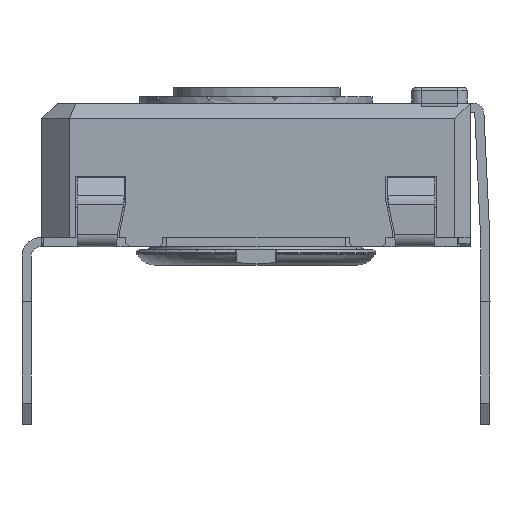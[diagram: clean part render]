
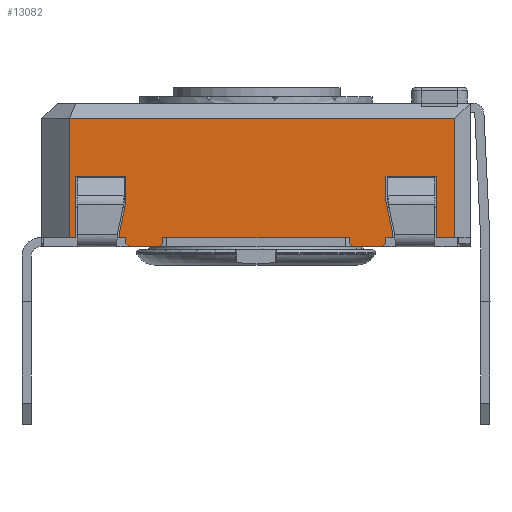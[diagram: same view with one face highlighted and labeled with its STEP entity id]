
A CAD part, left-side view. The second image highlights one B-rep face of the part: STEP entity #13082.
In plain terms, the highlighted planar face has unit normal (-1, 0, 0).
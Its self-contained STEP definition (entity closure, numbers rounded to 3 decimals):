
#1020=FACE_OUTER_BOUND('',#1702,.T.);
#1702=EDGE_LOOP('',(#10436,#10437,#10438,#10439,#10440,#10441,#10442,#10443,
#10444,#10445,#10446,#10447,#10448,#10449,#10450,#10451,#10452,#10453,#10454,
#10455,#10456,#10457,#10458,#10459,#10460,#10461,#10462,#10463));
#2706=LINE('',#20031,#4209);
#2712=LINE('',#20043,#4215);
#2715=LINE('',#20050,#4218);
#2720=LINE('',#20059,#4223);
#2740=LINE('',#20100,#4243);
#2754=LINE('',#20126,#4257);
#2758=LINE('',#20133,#4261);
#2773=LINE('',#20162,#4276);
#2776=LINE('',#20168,#4279);
#2781=LINE('',#20178,#4284);
#2784=LINE('',#20184,#4287);
#2787=LINE('',#20190,#4290);
#2805=LINE('',#20225,#4308);
#2817=LINE('',#20247,#4320);
#2820=LINE('',#20253,#4323);
#2857=LINE('',#20387,#4360);
#2865=LINE('',#20401,#4368);
#2874=LINE('',#20419,#4377);
#2879=LINE('',#20429,#4382);
#2881=LINE('',#20432,#4384);
#3006=LINE('',#20743,#4509);
#3008=LINE('',#20748,#4511);
#3011=LINE('',#20752,#4514);
#3013=LINE('',#20756,#4516);
#3016=LINE('',#20764,#4519);
#3017=LINE('',#20766,#4520);
#3018=LINE('',#20767,#4521);
#3019=LINE('',#20768,#4522);
#4209=VECTOR('',#16028,10.);
#4215=VECTOR('',#16036,10.);
#4218=VECTOR('',#16041,10.);
#4223=VECTOR('',#16048,10.);
#4243=VECTOR('',#16082,10.);
#4257=VECTOR('',#16096,10.);
#4261=VECTOR('',#16100,10.);
#4276=VECTOR('',#16127,10.);
#4279=VECTOR('',#16132,10.);
#4284=VECTOR('',#16139,10.);
#4287=VECTOR('',#16144,10.);
#4290=VECTOR('',#16149,10.);
#4308=VECTOR('',#16169,10.);
#4320=VECTOR('',#16183,10.);
#4323=VECTOR('',#16188,10.);
#4360=VECTOR('',#16269,10.);
#4368=VECTOR('',#16279,10.);
#4377=VECTOR('',#16290,10.);
#4382=VECTOR('',#16297,10.);
#4384=VECTOR('',#16301,10.);
#4509=VECTOR('',#16592,10.);
#4511=VECTOR('',#16596,10.);
#4514=VECTOR('',#16601,10.);
#4516=VECTOR('',#16607,10.);
#4519=VECTOR('',#16618,10.);
#4520=VECTOR('',#16619,10.);
#4521=VECTOR('',#16620,10.);
#4522=VECTOR('',#16621,10.);
#5619=VERTEX_POINT('',#20028);
#5620=VERTEX_POINT('',#20030);
#5624=VERTEX_POINT('',#20040);
#5626=VERTEX_POINT('',#20046);
#5628=VERTEX_POINT('',#20049);
#5631=VERTEX_POINT('',#20057);
#5656=VERTEX_POINT('',#20123);
#5657=VERTEX_POINT('',#20125);
#5659=VERTEX_POINT('',#20130);
#5660=VERTEX_POINT('',#20132);
#5667=VERTEX_POINT('',#20159);
#5669=VERTEX_POINT('',#20165);
#5673=VERTEX_POINT('',#20175);
#5675=VERTEX_POINT('',#20181);
#5678=VERTEX_POINT('',#20188);
#5694=VERTEX_POINT('',#20223);
#5703=VERTEX_POINT('',#20245);
#5705=VERTEX_POINT('',#20251);
#5732=VERTEX_POINT('',#20385);
#5737=VERTEX_POINT('',#20399);
#5744=VERTEX_POINT('',#20416);
#5748=VERTEX_POINT('',#20426);
#5822=VERTEX_POINT('',#20740);
#5823=VERTEX_POINT('',#20742);
#5824=VERTEX_POINT('',#20746);
#5825=VERTEX_POINT('',#20747);
#5826=VERTEX_POINT('',#20763);
#5827=VERTEX_POINT('',#20765);
#7144=EDGE_CURVE('',#5620,#5619,#2706,.T.);
#7150=EDGE_CURVE('',#5619,#5624,#2712,.T.);
#7153=EDGE_CURVE('',#5628,#5626,#2715,.T.);
#7158=EDGE_CURVE('',#5631,#5626,#2720,.T.);
#7178=EDGE_CURVE('',#5624,#5628,#2740,.T.);
#7192=EDGE_CURVE('',#5657,#5656,#2754,.T.);
#7196=EDGE_CURVE('',#5660,#5659,#2758,.T.);
#7212=EDGE_CURVE('',#5656,#5667,#2773,.T.);
#7215=EDGE_CURVE('',#5667,#5669,#2776,.T.);
#7220=EDGE_CURVE('',#5669,#5673,#2781,.T.);
#7223=EDGE_CURVE('',#5673,#5675,#2784,.T.);
#7226=EDGE_CURVE('',#5675,#5678,#2787,.T.);
#7244=EDGE_CURVE('',#5678,#5694,#2805,.T.);
#7256=EDGE_CURVE('',#5703,#5694,#2817,.T.);
#7259=EDGE_CURVE('',#5705,#5703,#2820,.T.);
#7308=EDGE_CURVE('',#5732,#5705,#2857,.T.);
#7316=EDGE_CURVE('',#5732,#5737,#2865,.T.);
#7325=EDGE_CURVE('',#5737,#5744,#2874,.T.);
#7330=EDGE_CURVE('',#5744,#5748,#2879,.T.);
#7332=EDGE_CURVE('',#5748,#5620,#2881,.T.);
#7473=EDGE_CURVE('',#5822,#5823,#3006,.T.);
#7475=EDGE_CURVE('',#5824,#5825,#3008,.T.);
#7478=EDGE_CURVE('',#5657,#5822,#3011,.T.);
#7480=EDGE_CURVE('',#5659,#5825,#3013,.T.);
#7483=EDGE_CURVE('',#5631,#5826,#3016,.T.);
#7484=EDGE_CURVE('',#5827,#5826,#3017,.T.);
#7485=EDGE_CURVE('',#5660,#5827,#3018,.T.);
#7486=EDGE_CURVE('',#5824,#5823,#3019,.T.);
#10436=ORIENTED_EDGE('',*,*,#7150,.T.);
#10437=ORIENTED_EDGE('',*,*,#7178,.T.);
#10438=ORIENTED_EDGE('',*,*,#7153,.T.);
#10439=ORIENTED_EDGE('',*,*,#7158,.F.);
#10440=ORIENTED_EDGE('',*,*,#7483,.T.);
#10441=ORIENTED_EDGE('',*,*,#7484,.F.);
#10442=ORIENTED_EDGE('',*,*,#7485,.F.);
#10443=ORIENTED_EDGE('',*,*,#7196,.T.);
#10444=ORIENTED_EDGE('',*,*,#7480,.T.);
#10445=ORIENTED_EDGE('',*,*,#7475,.F.);
#10446=ORIENTED_EDGE('',*,*,#7486,.T.);
#10447=ORIENTED_EDGE('',*,*,#7473,.F.);
#10448=ORIENTED_EDGE('',*,*,#7478,.F.);
#10449=ORIENTED_EDGE('',*,*,#7192,.T.);
#10450=ORIENTED_EDGE('',*,*,#7212,.T.);
#10451=ORIENTED_EDGE('',*,*,#7215,.T.);
#10452=ORIENTED_EDGE('',*,*,#7220,.T.);
#10453=ORIENTED_EDGE('',*,*,#7223,.T.);
#10454=ORIENTED_EDGE('',*,*,#7226,.T.);
#10455=ORIENTED_EDGE('',*,*,#7244,.T.);
#10456=ORIENTED_EDGE('',*,*,#7256,.F.);
#10457=ORIENTED_EDGE('',*,*,#7259,.F.);
#10458=ORIENTED_EDGE('',*,*,#7308,.F.);
#10459=ORIENTED_EDGE('',*,*,#7316,.T.);
#10460=ORIENTED_EDGE('',*,*,#7325,.T.);
#10461=ORIENTED_EDGE('',*,*,#7330,.T.);
#10462=ORIENTED_EDGE('',*,*,#7332,.T.);
#10463=ORIENTED_EDGE('',*,*,#7144,.T.);
#12259=PLANE('',#13961);
#13082=ADVANCED_FACE('',(#1020),#12259,.T.);
#13961=AXIS2_PLACEMENT_3D('',#20762,#16616,#16617);
#16028=DIRECTION('',(0.,0.208,-0.978));
#16036=DIRECTION('',(0.,0.,-1.));
#16041=DIRECTION('',(0.,0.,-1.));
#16048=DIRECTION('',(0.,0.707,0.707));
#16082=DIRECTION('',(0.,-1.,0.));
#16096=DIRECTION('',(0.,-1.,0.));
#16100=DIRECTION('',(0.,-1.,0.));
#16127=DIRECTION('',(0.,0.,1.));
#16132=DIRECTION('',(0.,0.208,0.978));
#16139=DIRECTION('',(0.,0.,1.));
#16144=DIRECTION('',(0.,-1.,0.));
#16149=DIRECTION('',(0.,0.,-1.));
#16169=DIRECTION('',(0.,-1.,0.));
#16183=DIRECTION('',(0.,0.,-1.));
#16188=DIRECTION('',(0.,-1.,0.));
#16269=DIRECTION('',(0.,0.,1.));
#16279=DIRECTION('',(0.,-1.,0.));
#16290=DIRECTION('',(0.,0.,1.));
#16297=DIRECTION('',(0.,-1.,0.));
#16301=DIRECTION('',(0.,0.,-1.));
#16592=DIRECTION('',(0.,0.707,-0.707));
#16596=DIRECTION('',(0.,0.707,0.707));
#16601=DIRECTION('',(0.,0.,-1.));
#16607=DIRECTION('',(0.,0.,-1.));
#16616=DIRECTION('center_axis',(-1.,0.,0.));
#16617=DIRECTION('ref_axis',(0.,0.,1.));
#16618=DIRECTION('',(0.,-1.,0.));
#16619=DIRECTION('',(0.,0.707,-0.707));
#16620=DIRECTION('',(0.,0.,-1.));
#16621=DIRECTION('',(0.,-1.,0.));
#20028=CARTESIAN_POINT('',(-14.467,1.552,0.235));
#20030=CARTESIAN_POINT('',(-14.467,1.352,1.176));
#20031=CARTESIAN_POINT('',(-14.467,1.228,1.757));
#20040=CARTESIAN_POINT('',(-14.467,1.552,0.));
#20043=CARTESIAN_POINT('',(-14.467,1.552,0.));
#20046=CARTESIAN_POINT('',(-14.467,1.352,-0.2));
#20049=CARTESIAN_POINT('',(-14.467,1.352,0.));
#20050=CARTESIAN_POINT('',(-14.467,1.352,0.));
#20057=CARTESIAN_POINT('',(-14.467,1.252,-0.3));
#20059=CARTESIAN_POINT('',(-14.467,-1.436,-2.988));
#20100=CARTESIAN_POINT('',(-14.467,4.102,0.));
#20123=CARTESIAN_POINT('',(-14.467,-7.348,0.));
#20125=CARTESIAN_POINT('',(-14.467,-7.148,0.));
#20126=CARTESIAN_POINT('',(-14.467,4.102,0.));
#20130=CARTESIAN_POINT('',(-14.467,-5.948,0.));
#20132=CARTESIAN_POINT('',(-14.467,0.152,0.));
#20133=CARTESIAN_POINT('',(-14.467,4.102,0.));
#20159=CARTESIAN_POINT('',(-14.467,-7.348,0.235));
#20162=CARTESIAN_POINT('',(-14.467,-7.348,0.118));
#20165=CARTESIAN_POINT('',(-14.467,-7.148,1.176));
#20168=CARTESIAN_POINT('',(-14.467,-7.453,-0.254));
#20175=CARTESIAN_POINT('',(-14.467,-7.148,2.));
#20178=CARTESIAN_POINT('',(-14.467,-7.148,0.588));
#20181=CARTESIAN_POINT('',(-14.467,-8.798,2.));
#20184=CARTESIAN_POINT('',(-14.467,-8.523,2.));
#20188=CARTESIAN_POINT('',(-14.467,-8.798,0.));
#20190=CARTESIAN_POINT('',(-14.467,-8.798,0.));
#20223=CARTESIAN_POINT('',(-14.467,-9.398,0.));
#20225=CARTESIAN_POINT('',(-14.467,-9.595,0.));
#20245=CARTESIAN_POINT('',(-14.467,-9.398,3.9));
#20247=CARTESIAN_POINT('',(-14.467,-9.398,0.));
#20251=CARTESIAN_POINT('',(-14.467,3.202,3.9));
#20253=CARTESIAN_POINT('',(-14.467,-6.398,3.9));
#20385=CARTESIAN_POINT('',(-14.467,3.202,0.));
#20387=CARTESIAN_POINT('',(-14.467,3.202,0.));
#20399=CARTESIAN_POINT('',(-14.467,3.002,0.));
#20401=CARTESIAN_POINT('',(-14.467,-2.985,0.));
#20416=CARTESIAN_POINT('',(-14.467,3.002,2.));
#20419=CARTESIAN_POINT('',(-14.467,3.002,0.));
#20426=CARTESIAN_POINT('',(-14.467,1.352,2.));
#20429=CARTESIAN_POINT('',(-14.467,-3.448,2.));
#20432=CARTESIAN_POINT('',(-14.467,1.352,1.));
#20740=CARTESIAN_POINT('',(-14.467,-7.148,-0.2));
#20742=CARTESIAN_POINT('',(-14.467,-7.048,-0.3));
#20743=CARTESIAN_POINT('',(-14.467,-7.861,0.513));
#20746=CARTESIAN_POINT('',(-14.467,-6.048,-0.3));
#20747=CARTESIAN_POINT('',(-14.467,-5.948,-0.2));
#20748=CARTESIAN_POINT('',(-14.467,-6.911,-1.163));
#20752=CARTESIAN_POINT('',(-14.467,-7.148,0.));
#20756=CARTESIAN_POINT('',(-14.467,-5.948,0.));
#20762=CARTESIAN_POINT('Origin',(-14.467,-9.898,0.));
#20763=CARTESIAN_POINT('',(-14.467,0.252,-0.3));
#20764=CARTESIAN_POINT('',(-14.467,0.152,-0.3));
#20765=CARTESIAN_POINT('',(-14.467,0.152,-0.2));
#20766=CARTESIAN_POINT('',(-14.467,-2.386,2.338));
#20767=CARTESIAN_POINT('',(-14.467,0.152,0.));
#20768=CARTESIAN_POINT('',(-14.467,-7.148,-0.3));
